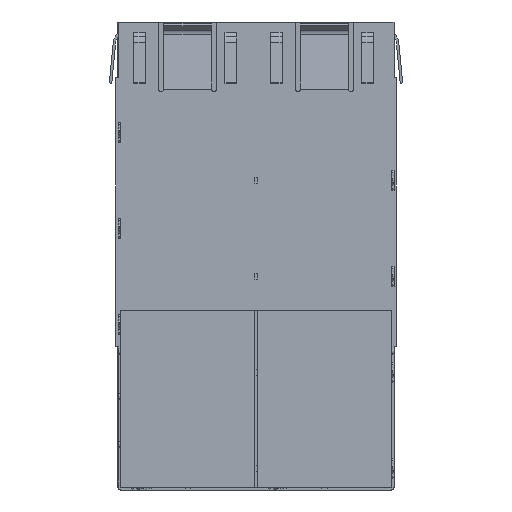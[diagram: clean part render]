
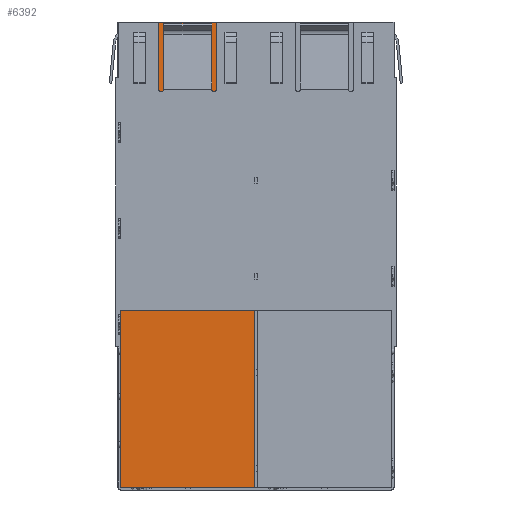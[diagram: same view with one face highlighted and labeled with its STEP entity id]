
A CAD part, front view. The second image highlights one B-rep face of the part: STEP entity #6392.
In plain terms, the highlighted planar face has unit normal (0, -1, 0).
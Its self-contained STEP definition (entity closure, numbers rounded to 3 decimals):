
#207 = CARTESIAN_POINT ( 'NONE',  ( 14.075, 9.2, -78.384 ) ) ;
#489 = CARTESIAN_POINT ( 'NONE',  ( 14.075, 9.2, -48.5 ) ) ;
#1411 = EDGE_CURVE ( 'NONE', #6372, #6946, #14106, .T. ) ;
#1557 = DIRECTION ( 'NONE',  ( -1., 0., 0. ) ) ;
#1668 = DIRECTION ( 'NONE',  ( -1., 0., 0. ) ) ;
#1962 = LINE ( 'NONE', #6243, #13698 ) ;
#2518 = PLANE ( 'NONE',  #14367 ) ;
#3461 = VERTEX_POINT ( 'NONE', #7600 ) ;
#3739 = DIRECTION ( 'NONE',  ( 0., 0., 1. ) ) ;
#3756 = VERTEX_POINT ( 'NONE', #9391 ) ;
#4980 = ORIENTED_EDGE ( 'NONE', *, *, #10147, .F. ) ;
#5077 = CARTESIAN_POINT ( 'NONE',  ( 14.075, 9.2, 0. ) ) ;
#5316 = DIRECTION ( 'NONE',  ( 0., 0., -1. ) ) ;
#5542 = VECTOR ( 'NONE', #1668, 1000. ) ;
#6227 = VECTOR ( 'NONE', #1557, 1000. ) ;
#6243 = CARTESIAN_POINT ( 'NONE',  ( -14.075, 9.2, -78.384 ) ) ;
#6372 = VERTEX_POINT ( 'NONE', #7169 ) ;
#6392 = ADVANCED_FACE ( 'NONE', ( #12030 ), #2518, .F. ) ;
#6938 = ORIENTED_EDGE ( 'NONE', *, *, #1411, .F. ) ;
#6946 = VERTEX_POINT ( 'NONE', #10641 ) ;
#7169 = CARTESIAN_POINT ( 'NONE',  ( -0.125, 9.2, 0. ) ) ;
#7600 = CARTESIAN_POINT ( 'NONE',  ( -14.075, 9.2, -48.5 ) ) ;
#7856 = VECTOR ( 'NONE', #5316, 1000. ) ;
#8278 = ORIENTED_EDGE ( 'NONE', *, *, #12332, .F. ) ;
#8564 = EDGE_LOOP ( 'NONE', ( #6938, #10541, #4980, #8278 ) ) ;
#9391 = CARTESIAN_POINT ( 'NONE',  ( -14.075, 9.2, 0. ) ) ;
#9713 = LINE ( 'NONE', #5077, #6227 ) ;
#10147 = EDGE_CURVE ( 'NONE', #3461, #3756, #1962, .T. ) ;
#10541 = ORIENTED_EDGE ( 'NONE', *, *, #13108, .T. ) ;
#10641 = CARTESIAN_POINT ( 'NONE',  ( -0.125, 9.2, -48.5 ) ) ;
#10759 = DIRECTION ( 'NONE',  ( 0., 1., 0. ) ) ;
#12030 = FACE_OUTER_BOUND ( 'NONE', #8564, .T. ) ;
#12091 = DIRECTION ( 'NONE',  ( 0., 0., 1. ) ) ;
#12332 = EDGE_CURVE ( 'NONE', #6946, #3461, #14885, .T. ) ;
#12350 = CARTESIAN_POINT ( 'NONE',  ( -0.125, 9.2, 8.953 ) ) ;
#13108 = EDGE_CURVE ( 'NONE', #6372, #3756, #9713, .T. ) ;
#13698 = VECTOR ( 'NONE', #12091, 1000. ) ;
#14106 = LINE ( 'NONE', #12350, #7856 ) ;
#14367 = AXIS2_PLACEMENT_3D ( 'NONE', #207, #10759, #3739 ) ;
#14885 = LINE ( 'NONE', #489, #5542 ) ;
